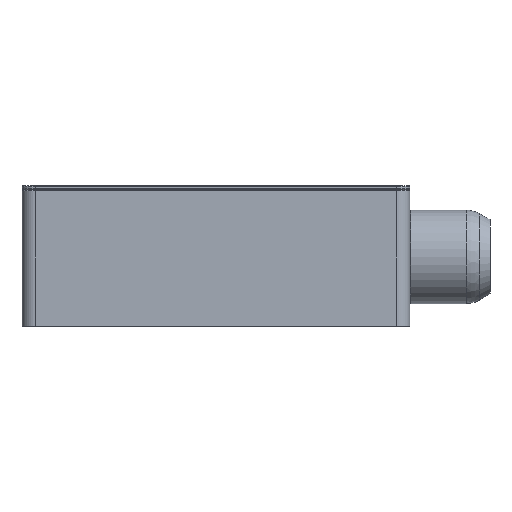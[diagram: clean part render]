
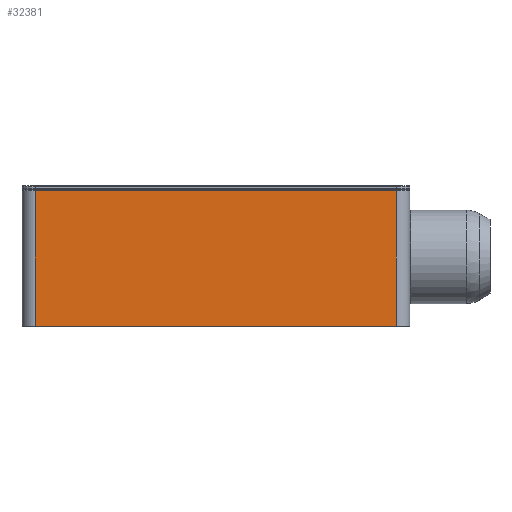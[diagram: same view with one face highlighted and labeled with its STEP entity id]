
A CAD part, left-side view. The second image highlights one B-rep face of the part: STEP entity #32381.
In plain terms, the highlighted planar face has unit normal (-1, 0, 0).
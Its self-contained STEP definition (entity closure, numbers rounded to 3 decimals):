
#50 = ORIENTED_EDGE ( 'NONE', *, *, #3248, .F. ) ;
#1529 = CARTESIAN_POINT ( 'NONE',  ( -145., 135., 50. ) ) ;
#3248 = EDGE_CURVE ( 'NONE', #59999, #67184, #59112, .T. ) ;
#6262 = ORIENTED_EDGE ( 'NONE', *, *, #42786, .T. ) ;
#14304 = CARTESIAN_POINT ( 'NONE',  ( -145., 135., -52. ) ) ;
#15578 = DIRECTION ( 'NONE',  ( 0., 0., -1. ) ) ;
#16823 = LINE ( 'NONE', #81434, #25422 ) ;
#19092 = DIRECTION ( 'NONE',  ( 0., 0., -1. ) ) ;
#19468 = VECTOR ( 'NONE', #20099, 1000. ) ;
#19720 = VECTOR ( 'NONE', #75646, 1000. ) ;
#20099 = DIRECTION ( 'NONE',  ( 0., 1., 0. ) ) ;
#21141 = VERTEX_POINT ( 'NONE', #30805 ) ;
#25236 = EDGE_CURVE ( 'NONE', #21141, #59999, #61272, .T. ) ;
#25422 = VECTOR ( 'NONE', #15578, 1000. ) ;
#25505 = DIRECTION ( 'NONE',  ( 1., 0., 0. ) ) ;
#29494 = CARTESIAN_POINT ( 'NONE',  ( -145., -135., -52. ) ) ;
#29997 = AXIS2_PLACEMENT_3D ( 'NONE', #1529, #25505, #19092 ) ;
#30805 = CARTESIAN_POINT ( 'NONE',  ( -145., -135., 49.5 ) ) ;
#31870 = FACE_OUTER_BOUND ( 'NONE', #61805, .T. ) ;
#32381 = ADVANCED_FACE ( 'NONE', ( #31870 ), #83769, .F. ) ;
#39759 = VECTOR ( 'NONE', #81258, 1000. ) ;
#39838 = ORIENTED_EDGE ( 'NONE', *, *, #80592, .T. ) ;
#40915 = LINE ( 'NONE', #78782, #19468 ) ;
#42786 = EDGE_CURVE ( 'NONE', #54502, #67184, #16823, .T. ) ;
#48519 = CARTESIAN_POINT ( 'NONE',  ( -145., -135., 50. ) ) ;
#54502 = VERTEX_POINT ( 'NONE', #83280 ) ;
#59112 = LINE ( 'NONE', #81188, #19720 ) ;
#59999 = VERTEX_POINT ( 'NONE', #29494 ) ;
#61272 = LINE ( 'NONE', #48519, #39759 ) ;
#61805 = EDGE_LOOP ( 'NONE', ( #82106, #39838, #6262, #50 ) ) ;
#67184 = VERTEX_POINT ( 'NONE', #14304 ) ;
#75646 = DIRECTION ( 'NONE',  ( 0., 1., 0. ) ) ;
#78782 = CARTESIAN_POINT ( 'NONE',  ( -145., 135., 49.5 ) ) ;
#80592 = EDGE_CURVE ( 'NONE', #21141, #54502, #40915, .T. ) ;
#81188 = CARTESIAN_POINT ( 'NONE',  ( -145., -135., -52. ) ) ;
#81258 = DIRECTION ( 'NONE',  ( 0., 0., -1. ) ) ;
#81434 = CARTESIAN_POINT ( 'NONE',  ( -145., 135., 50. ) ) ;
#82106 = ORIENTED_EDGE ( 'NONE', *, *, #25236, .F. ) ;
#83280 = CARTESIAN_POINT ( 'NONE',  ( -145., 135., 49.5 ) ) ;
#83769 = PLANE ( 'NONE',  #29997 ) ;
